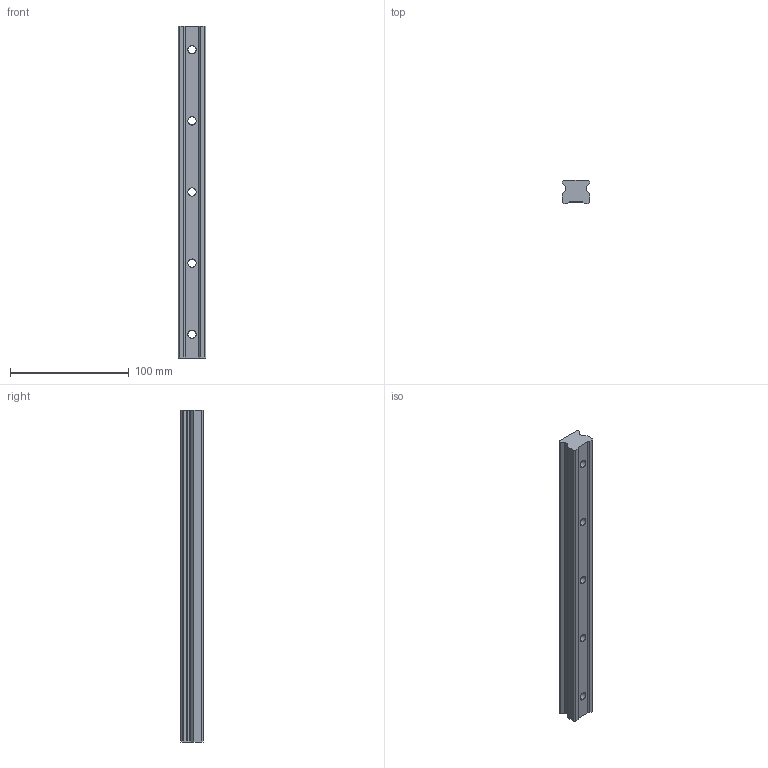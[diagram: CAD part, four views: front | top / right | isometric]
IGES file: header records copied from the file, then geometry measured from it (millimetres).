
Start section: SolidWorks IGES file using analytic representation for surfaces
Global section: file name: C:\Users\IanO\Desktop\L1016_v2\L1016.BL25_v2\L1016.BL25_v2_20160611_IGES\L1016.BL25-0280.igs; native system: SolidWorks 2017; preprocessor: SolidWorks 2017; author: IanO; date: 190612.130424; units: millimetre
Bounding box: 23 x 19.2 x 280 mm (x, y, z)
Surface area: 27326.3 mm2 (no closed solid volume)
Topology: 0 solids, 0 shells, 51 faces, 888 edges, 888 vertices
Faces by surface type: bspline 27, revolution 24
